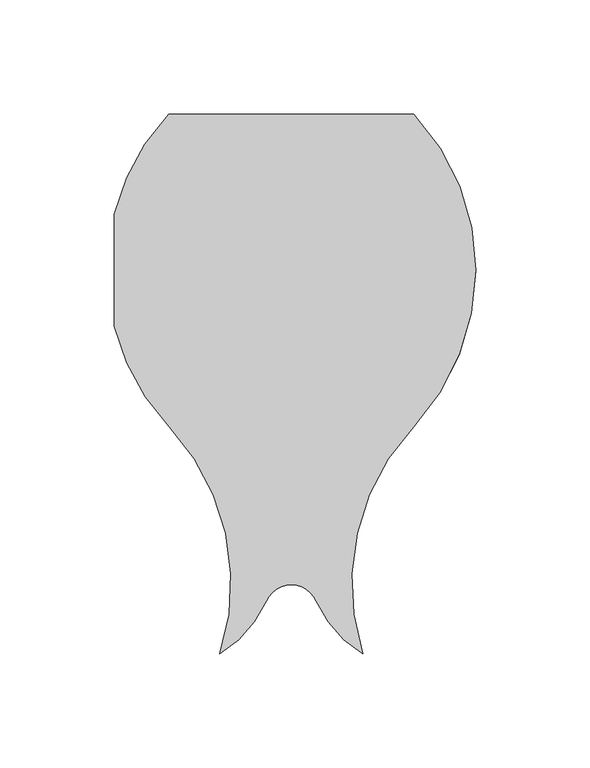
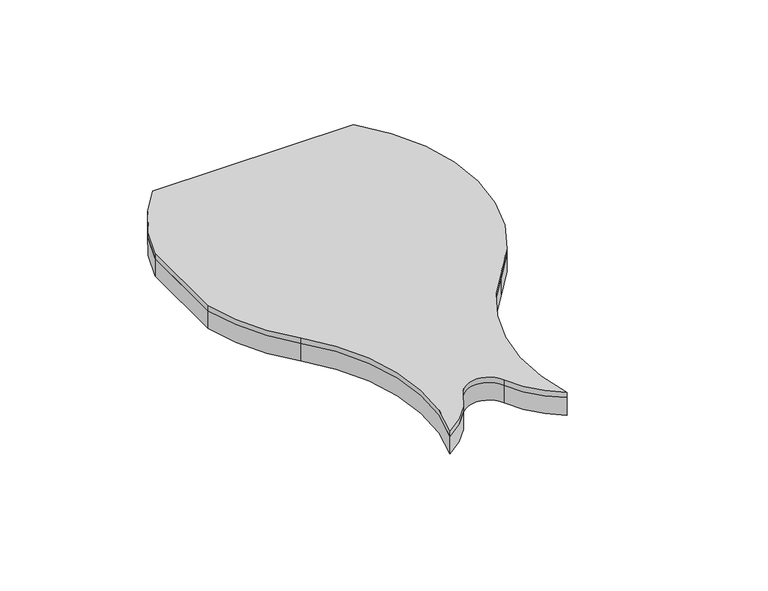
"""IFC4 building model written with IfcOpenShell, lengths in millimetres: proxy geometry, FilzFelt_Fish_Block : Fish Block."""

from ifc_helpers import new_model, si_unit, frame, origin, place, context, project, spatial, polyline, circle_curve, source, transform, mapped, element, save
from ifc_brep_helpers import plane_surface, cylinder_surface, revolved_surface, advanced_brep


def specialty_equipment_3faf9097(model_context):
    return source(origin(), model_context, "Body", "AdvancedBrep", [
        advanced_brep(
        [(53.5486457, -68.6120133, 10.0210937), (31.2619065, -168.1141956, 10.0210937), (11.0103348, -145.0347036, 10.0210937), (-11.0103348, -145.0347036, 10.0210937), (-31.2619065, -168.1141956, 10.0210937), (-53.5486457, -68.6120133, 10.0210937), (-77.6593049, -24.5571251, 10.0210937), (-77.6593049, 24.5571251, 10.0210937), (-53.7372709, 68.4105946, 10.0210937), (53.7372709, 68.4105946, 10.0210937), (-53.5486457, -68.6120133, 12.9976563), (-31.2619065, -168.1141956, 12.9976563), (-11.0103348, -145.0347036, 12.9976563), (11.0103348, -145.0347036, 12.9976563), (31.2619065, -168.1141956, 12.9976563), (53.5486457, -68.6120133, 12.9976563), (80.7142226, 0.0, 12.9976563), (53.7372709, 68.4105946, 12.9976563), (-53.7372709, 68.4105946, 12.9976563), (-77.6593049, 24.5571251, 12.9976563), (-77.6593049, -24.5571251, 12.9976563)],
        [
            (0, 1, circle_curve(frame((126.6124317, -137.2240266, 10.0210937), z_axis=(0.0, 0.0, 1.0), x_axis=(-1.0, 0.0, 0.0)), 100.2293629)),
            (1, 2, circle_curve(frame((57.9263497, -124.2921115, 10.0210937), z_axis=(0.0, 0.0, -1.0), x_axis=(-1.0, 0.0, 0.0)), 51.2968574)),
            (2, 3, circle_curve(frame((0.0, -149.9026124, 10.0210937), z_axis=(0.0, 0.0, 1.0), x_axis=(-1.0, 0.0, 0.0)), 12.0384388)),
            (3, 4, circle_curve(frame((-57.9263497, -124.2921115, 10.0210937), z_axis=(0.0, 0.0, -1.0), x_axis=(-1.0, 0.0, 0.0)), 51.2968574)),
            (4, 5, circle_curve(frame((-126.6124317, -137.2240266, 10.0210937), z_axis=(0.0, 0.0, 1.0), x_axis=(-1.0, 0.0, 0.0)), 100.2293629)),
            (5, 6, circle_curve(frame((19.5151403, 0.0, 10.0210937), z_axis=(0.0, 0.0, -1.0), x_axis=(-1.0, 0.0, 0.0)), 100.2293629)),
            (6, 7),
            (7, 8, circle_curve(frame((19.5151403, 0.0, 10.0210937), z_axis=(0.0, 0.0, -1.0), x_axis=(-1.0, 0.0, 0.0)), 100.2293629)),
            (8, 9),
            (9, 0, circle_curve(frame((-19.5151403, 0.0, 10.0210937), z_axis=(0.0, 0.0, -1.0), x_axis=(-1.0, 0.0, 0.0)), 100.2293629)),
            (10, 11, circle_curve(frame((-126.6124317, -137.2240266, 12.9976563), z_axis=(0.0, 0.0, -1.0), x_axis=(-1.0, 0.0, 0.0)), 100.2293629)),
            (11, 12, circle_curve(frame((-57.9263497, -124.2921115, 12.9976563), z_axis=(0.0, 0.0, 1.0), x_axis=(-1.0, 0.0, 0.0)), 51.2968574)),
            (12, 13, circle_curve(frame((0.0, -149.9026124, 12.9976563), z_axis=(0.0, 0.0, -1.0), x_axis=(-1.0, 0.0, 0.0)), 12.0384388)),
            (13, 14, circle_curve(frame((57.9263497, -124.2921115, 12.9976563), z_axis=(0.0, 0.0, 1.0), x_axis=(-1.0, 0.0, 0.0)), 51.2968574)),
            (14, 15, circle_curve(frame((126.6124317, -137.2240266, 12.9976563), z_axis=(0.0, 0.0, -1.0), x_axis=(-1.0, 0.0, 0.0)), 100.2293629)),
            (15, 16, circle_curve(frame((-19.5151403, 0.0, 12.9976563), z_axis=(0.0, 0.0, 1.0), x_axis=(-1.0, 0.0, 0.0)), 100.2293629)),
            (16, 17, circle_curve(frame((-19.5151403, 0.0, 12.9976563), z_axis=(0.0, 0.0, 1.0), x_axis=(-1.0, 0.0, 0.0)), 100.2293629)),
            (17, 18),
            (18, 19, circle_curve(frame((19.5151403, 0.0, 12.9976563), z_axis=(0.0, 0.0, 1.0), x_axis=(-1.0, 0.0, 0.0)), 100.2293629)),
            (19, 20),
            (20, 10, circle_curve(frame((19.5151403, 0.0, 12.9976563), z_axis=(0.0, 0.0, 1.0), x_axis=(-1.0, 0.0, 0.0)), 100.2293629)),
            (15, 0),
            (9, 17),
            (14, 1),
            (13, 2),
            (12, 3),
            (11, 4),
            (10, 5),
            (20, 6),
            (18, 8),
            (7, 19),
        ],
        [
            plane_surface(frame((0.0, 0.0, 10.0210937), z_axis=(0.0, 0.0, -1.0), x_axis=(0.0, -1.0, 0.0))),
            plane_surface(frame((0.0, 0.0, 12.9976563), z_axis=(0.0, 0.0, 1.0), x_axis=(0.0, -1.0, 0.0))),
            cylinder_surface(frame((-19.5151403, 0.0, 10.0210937), z_axis=(0.0, 0.0, -1.0), x_axis=(-1.0, 0.0, 0.0)), 100.2293629),
            revolved_surface(polyline([(26.383068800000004, -137.2240266, 12.9976563), (26.383068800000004, -137.2240266, 10.0210937)]), (126.6124317, -137.2240266, 10.0210937), (0.0, 0.0, 1.0)),
            cylinder_surface(frame((57.9263497, -124.2921115, 10.0210937), z_axis=(0.0, 0.0, -1.0), x_axis=(-1.0, 0.0, 0.0)), 51.2968574),
            revolved_surface(polyline([(-12.0384388, -149.9026124, 12.9976563), (-12.0384388, -149.9026124, 10.0210937)]), (0.0, -149.9026124, 10.0210937), (0.0, 0.0, 1.0)),
            cylinder_surface(frame((-57.9263497, -124.2921115, 10.0210937), z_axis=(0.0, 0.0, -1.0), x_axis=(-1.0, 0.0, 0.0)), 51.2968574),
            revolved_surface(polyline([(-226.84179460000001, -137.2240266, 12.9976563), (-226.84179460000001, -137.2240266, 10.0210937)]), (-126.6124317, -137.2240266, 10.0210937), (0.0, 0.0, 1.0)),
            cylinder_surface(frame((19.5151403, 0.0, 10.0210937), z_axis=(0.0, 0.0, -1.0), x_axis=(-1.0, 0.0, 0.0)), 100.2293629),
            plane_surface(frame((-112.4642226, 68.4105946, 12.9976562), z_axis=(0.0, 1.0, 0.0), x_axis=(-1.0, 0.0, 0.0))),
            plane_surface(frame((-77.6593049, 168.3338795, 12.9976562), z_axis=(-1.0, 0.0, 0.0), x_axis=(0.0, -1.0, 0.0))),
        ],
        [
            (0, [[1, 2, 3, 4, 5, 6, 7, 8, 9, 10]]),
            (1, [[11, 12, 13, 14, 15, 16, 17, 18, 19, 20, 21]]),
            (2, [[22, -10, 23, -17, -16]]),
            (3, [[-1, -22, -15, 24]]),
            (4, [[-2, -24, -14, 25]]),
            (5, [[-3, -25, -13, 26]]),
            (6, [[-4, -26, -12, 27]]),
            (7, [[-5, -27, -11, 28]]),
            (8, [[-28, -21, 29, -6]]),
            (8, [[30, -8, 31, -19]]),
            (9, [[-9, -30, -18, -23]]),
            (10, [[-7, -29, -20, -31]]),
        ],
    ),
        advanced_brep(
        [(31.2619065, -168.1141956, 0.0), (11.0103348, -145.0347036, 0.0), (-11.0103348, -145.0347036, 0.0), (-31.2619065, -168.1141956, 0.0), (-53.5486457, -68.6120133, 0.0), (-77.6593049, -24.5571251, 0.0), (-77.6593049, 24.5571251, 0.0), (-53.7372709, 68.4105946, 0.0), (53.7372709, 68.4105946, 0.0), (80.7142226, 0.0, 0.0), (53.5486457, -68.6120133, 0.0), (31.2619065, -168.1141956, 10.0210937), (53.5486457, -68.6120133, 10.0210937), (53.7372709, 68.4105946, 10.0210937), (-53.7372709, 68.4105946, 10.0210937), (-77.6593049, 24.5571251, 10.0210937), (-77.6593049, -24.5571251, 10.0210937), (-53.5486457, -68.6120133, 10.0210937), (-31.2619065, -168.1141956, 10.0210937), (-11.0103348, -145.0347036, 10.0210937), (11.0103348, -145.0347036, 10.0210937)],
        [
            (0, 1, circle_curve(frame((57.9263497, -124.2921115, 0.0), z_axis=(0.0, 0.0, -1.0), x_axis=(-1.0, 0.0, 0.0)), 51.2968574)),
            (1, 2, circle_curve(frame((0.0, -149.9026124, 0.0), z_axis=(0.0, 0.0, 1.0), x_axis=(-1.0, 0.0, 0.0)), 12.0384388)),
            (2, 3, circle_curve(frame((-57.9263497, -124.2921115, 0.0), z_axis=(0.0, 0.0, -1.0), x_axis=(-1.0, 0.0, 0.0)), 51.2968574)),
            (3, 4, circle_curve(frame((-126.6124317, -137.2240266, 0.0), z_axis=(0.0, 0.0, 1.0), x_axis=(-1.0, 0.0, 0.0)), 100.2293629)),
            (4, 5, circle_curve(frame((19.5151403, 0.0, 0.0), z_axis=(0.0, 0.0, -1.0), x_axis=(-1.0, 0.0, 0.0)), 100.2293629)),
            (5, 6),
            (6, 7, circle_curve(frame((19.5151403, 0.0, 0.0), z_axis=(0.0, 0.0, -1.0), x_axis=(-1.0, 0.0, 0.0)), 100.2293629)),
            (7, 8),
            (8, 9, circle_curve(frame((-19.5151403, 0.0, 0.0), z_axis=(0.0, 0.0, -1.0), x_axis=(-1.0, 0.0, 0.0)), 100.2293629)),
            (9, 10, circle_curve(frame((-19.5151403, 0.0, 0.0), z_axis=(0.0, 0.0, -1.0), x_axis=(-1.0, 0.0, 0.0)), 100.2293629)),
            (10, 0, circle_curve(frame((126.6124317, -137.2240266, 0.0), z_axis=(0.0, 0.0, 1.0), x_axis=(-1.0, 0.0, 0.0)), 100.2293629)),
            (11, 12, circle_curve(frame((126.6124317, -137.2240266, 10.0210937), z_axis=(0.0, 0.0, -1.0), x_axis=(-1.0, 0.0, 0.0)), 100.2293629)),
            (12, 13, circle_curve(frame((-19.5151403, 0.0, 10.0210937), z_axis=(0.0, 0.0, 1.0), x_axis=(-1.0, 0.0, 0.0)), 100.2293629)),
            (13, 14),
            (14, 15, circle_curve(frame((19.5151403, 0.0, 10.0210937), z_axis=(0.0, 0.0, 1.0), x_axis=(-1.0, 0.0, 0.0)), 100.2293629)),
            (15, 16),
            (16, 17, circle_curve(frame((19.5151403, 0.0, 10.0210937), z_axis=(0.0, 0.0, 1.0), x_axis=(-1.0, 0.0, 0.0)), 100.2293629)),
            (17, 18, circle_curve(frame((-126.6124317, -137.2240266, 10.0210937), z_axis=(0.0, 0.0, -1.0), x_axis=(-1.0, 0.0, 0.0)), 100.2293629)),
            (18, 19, circle_curve(frame((-57.9263497, -124.2921115, 10.0210937), z_axis=(0.0, 0.0, 1.0), x_axis=(-1.0, 0.0, 0.0)), 51.2968574)),
            (19, 20, circle_curve(frame((0.0, -149.9026124, 10.0210937), z_axis=(0.0, 0.0, -1.0), x_axis=(-1.0, 0.0, 0.0)), 12.0384388)),
            (20, 11, circle_curve(frame((57.9263497, -124.2921115, 10.0210937), z_axis=(0.0, 0.0, 1.0), x_axis=(-1.0, 0.0, 0.0)), 51.2968574)),
            (0, 11),
            (20, 1),
            (19, 2),
            (18, 3),
            (17, 4),
            (16, 5),
            (14, 7),
            (6, 15),
            (12, 10),
            (8, 13),
        ],
        [
            plane_surface(frame((0.0, 0.0, 0.0), z_axis=(0.0, 0.0, -1.0), x_axis=(0.0, -1.0, 0.0))),
            plane_surface(frame((0.0, 0.0, 10.0210937), z_axis=(0.0, 0.0, 1.0), x_axis=(0.0, -1.0, 0.0))),
            cylinder_surface(frame((57.9263497, -124.2921115, 0.0), z_axis=(0.0, 0.0, -1.0), x_axis=(-1.0, 0.0, 0.0)), 51.2968574),
            revolved_surface(polyline([(-12.0384388, -149.9026124, 10.0210937), (-12.0384388, -149.9026124, 0.0)]), (0.0, -149.9026124, 0.0), (0.0, 0.0, 1.0)),
            cylinder_surface(frame((-57.9263497, -124.2921115, 0.0), z_axis=(0.0, 0.0, -1.0), x_axis=(-1.0, 0.0, 0.0)), 51.2968574),
            revolved_surface(polyline([(-226.84179460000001, -137.2240266, 10.0210937), (-226.84179460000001, -137.2240266, 0.0)]), (-126.6124317, -137.2240266, 0.0), (0.0, 0.0, 1.0)),
            cylinder_surface(frame((19.5151403, 0.0, 0.0), z_axis=(0.0, 0.0, -1.0), x_axis=(-1.0, 0.0, 0.0)), 100.2293629),
            cylinder_surface(frame((-19.5151403, 0.0, 0.0), z_axis=(0.0, 0.0, -1.0), x_axis=(-1.0, 0.0, 0.0)), 100.2293629),
            revolved_surface(polyline([(26.383068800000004, -137.2240266, 10.0210937), (26.383068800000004, -137.2240266, 0.0)]), (126.6124317, -137.2240266, 0.0), (0.0, 0.0, 1.0)),
            plane_surface(frame((-112.4642226, 68.4105946, 12.9976562), z_axis=(0.0, 1.0, 0.0), x_axis=(-1.0, 0.0, 0.0))),
            plane_surface(frame((-77.6593049, 168.3338795, 12.9976562), z_axis=(-1.0, 0.0, 0.0), x_axis=(0.0, -1.0, 0.0))),
        ],
        [
            (0, [[1, 2, 3, 4, 5, 6, 7, 8, 9, 10, 11]]),
            (1, [[12, 13, 14, 15, 16, 17, 18, 19, 20, 21]]),
            (2, [[-1, 22, -21, 23]]),
            (3, [[-2, -23, -20, 24]]),
            (4, [[-3, -24, -19, 25]]),
            (5, [[-4, -25, -18, 26]]),
            (6, [[-26, -17, 27, -5]]),
            (6, [[28, -7, 29, -15]]),
            (7, [[30, -10, -9, 31, -13]]),
            (8, [[-11, -30, -12, -22]]),
            (9, [[-8, -28, -14, -31]]),
            (10, [[-6, -27, -16, -29]]),
        ],
    ),
    ])


if __name__ == "__main__":
    model = new_model("IFC4")
    model_context = context("Model", 3, world=origin())
    ifc_project = project(units=[si_unit("LENGTHUNIT", "METRE", prefix="MILLI")], contexts=[model_context])
    site = spatial("IfcSite", under=ifc_project)
    building = spatial("IfcBuilding", under=site)
    placement = place(None, origin())
    specialty_equipment_shape = specialty_equipment_3faf9097(model_context)
    element("IfcBuildingElementProxy", 1, Name="FilzFelt_Fish_Block : Fish Block", ObjectType="FilzFelt_Fish_Block : Fish Block", at=placement, inside=building, context=model_context, shape_type="MappedRepresentation", body=[
        mapped(specialty_equipment_shape, transform((0.0, 0.0, 0.0), x_axis=(1.0, 0.0, 0.0), y_axis=(0.0, 1.0, 0.0), z_axis=(0.0, 0.0, 1.0))),
    ])
    save(model, "model.ifc")
